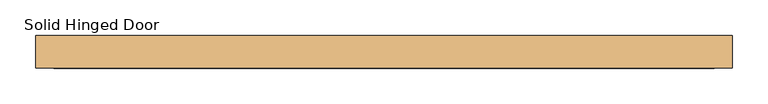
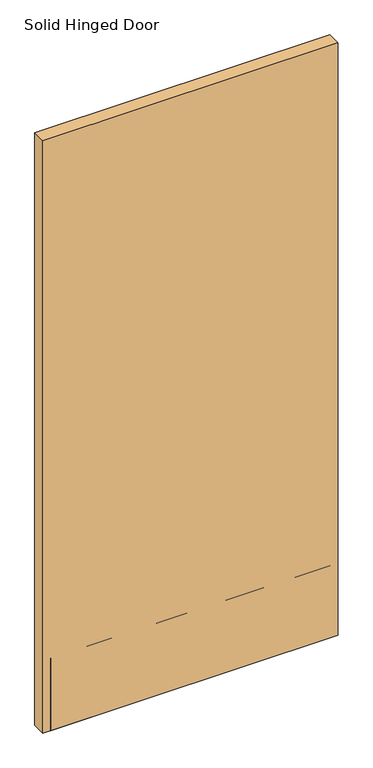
"""IFC4 building model written with IfcOpenShell, lengths in millimetres: door geometry, Solid_Hinged_Door-Teknion-FHDA-Leaf_Single-R2022 : Solid Hinged Door."""

from ifc_helpers import new_model, si_unit, frame, origin, place, context, project, spatial, polyline, outline, extrude, faceted_brep, source, transform, mapped, element, save


def solid_hinged_door_95d3dafd(model_context):
    return source(origin(), model_context, "Body", "SolidModel", [
        faceted_brep([(490.4564326, -23.114, 12.7), (-490.4564326, -23.114, 12.7), (-490.4564326, 23.114, 12.7), (490.4564326, 23.114, 12.7), (490.4564326, 7.1501, 12.7), (-484.1064326, 7.1501, 12.7), (-484.1064326, -7.1501, 12.7), (490.4564326, -7.1501, 12.7), (490.4564326, 23.114, 2093.9635027), (490.4564326, -23.114, 2093.9635027), (490.4564326, -7.1501, 50.8), (490.4564326, 7.1501, 50.8), (-490.4564326, -23.114, 2093.9635027), (-490.4564326, 23.114, 2093.9635027), (-484.1064326, 7.1501, 50.8), (-484.1064326, -7.1501, 50.8)], [[[0, 1, 2, 3, 4, 5, 6, 7]], [[8, 9, 0, 7, 10, 11, 4, 3]], [[9, 12, 1, 0]], [[12, 13, 2, 1]], [[13, 8, 3, 2]], [[8, 13, 12, 9]], [[11, 14, 5, 4]], [[14, 15, 6, 5]], [[15, 10, 7, 6]], [[15, 14, 11, 10]]]),
        extrude(outline(polyline([(465.0564326, -9.8925062), (465.0564326, -11.4927062), (-465.0564326, -11.4927062), (-465.0564326, -9.8925062), (465.0564326, -9.8925062)])), frame((0.0, 0.0, 12.7), z_axis=(0.0, 0.0, 1.0), x_axis=(1.0, 0.0, 0.0)), (0.0, 0.0, 1.0), 254.0),
        extrude(outline(polyline([(465.0564326, -21.5138), (465.0564326, -23.114), (-465.0564326, -23.114), (-465.0564326, -21.5138), (465.0564326, -21.5138)])), frame((0.0, 0.0, 12.7), z_axis=(0.0, 0.0, 1.0), x_axis=(1.0, 0.0, 0.0)), (0.0, 0.0, 1.0), 254.0),
    ])


if __name__ == "__main__":
    model = new_model("IFC4")
    model_context = context("Model", 3, world=origin())
    ifc_project = project(units=[si_unit("LENGTHUNIT", "METRE", prefix="MILLI")], contexts=[model_context])
    site = spatial("IfcSite", under=ifc_project)
    building = spatial("IfcBuilding", under=site)
    placement = place(None, origin())
    solid_hinged_door_shape = solid_hinged_door_95d3dafd(model_context)
    element("IfcDoor", 1, ObjectType="Solid_Hinged_Door-Teknion-FHDA-Leaf_Single-R2022 : Solid Hinged Door", at=placement, inside=building, context=model_context, shape_type="MappedRepresentation", body=[
        mapped(solid_hinged_door_shape, transform((0.0, 0.0, 0.0), x_axis=(1.0, 0.0, 0.0), y_axis=(0.0, 1.0, 0.0), z_axis=(0.0, 0.0, 1.0))),
    ])
    save(model, "model.ifc")
